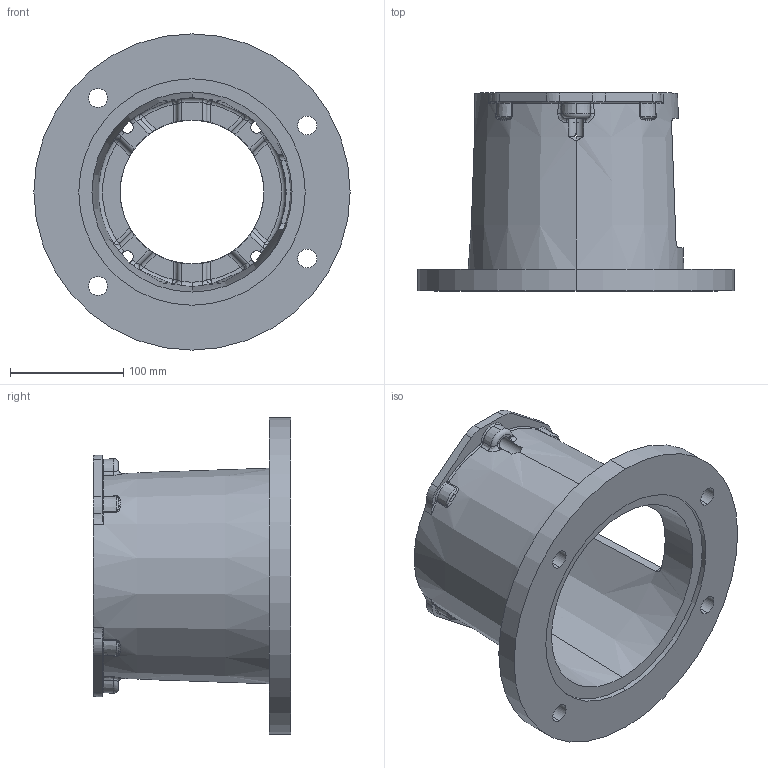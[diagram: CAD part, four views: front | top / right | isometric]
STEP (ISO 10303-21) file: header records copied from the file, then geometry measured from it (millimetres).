
FILE_DESCRIPTION (( 'STEP AP203' ), '1' );
FILE_NAME ('E787682C.STEP', '2014-11-04T13:46:22', ( '' ), ( '' ), 'SwSTEP 2.0', 'SolidWorks 2014', '' );
FILE_SCHEMA (( 'CONFIG_CONTROL_DESIGN' ));
Length unit declared in the file: inch
Products named in the file (1): E787682C
Bounding box: 279.4 x 174.75 x 279.4 mm (x, y, z)
Volume: 1376516.5 mm3; surface area: 295616.6 mm2
Topology: 1 solids, 1 shells, 320 faces, 866 edges, 524 vertices
Faces by surface type: cylinder 86, torus 74, bspline 64, plane 50, sphere 24, cone 22
Entity records: 13965 total; most frequent: CARTESIAN_POINT 6435, ORIENTED_EDGE 1700, DIRECTION 1478, EDGE_CURVE 850, AXIS2_PLACEMENT_3D 661, VERTEX_POINT 524, CIRCLE 404, EDGE_LOOP 340
